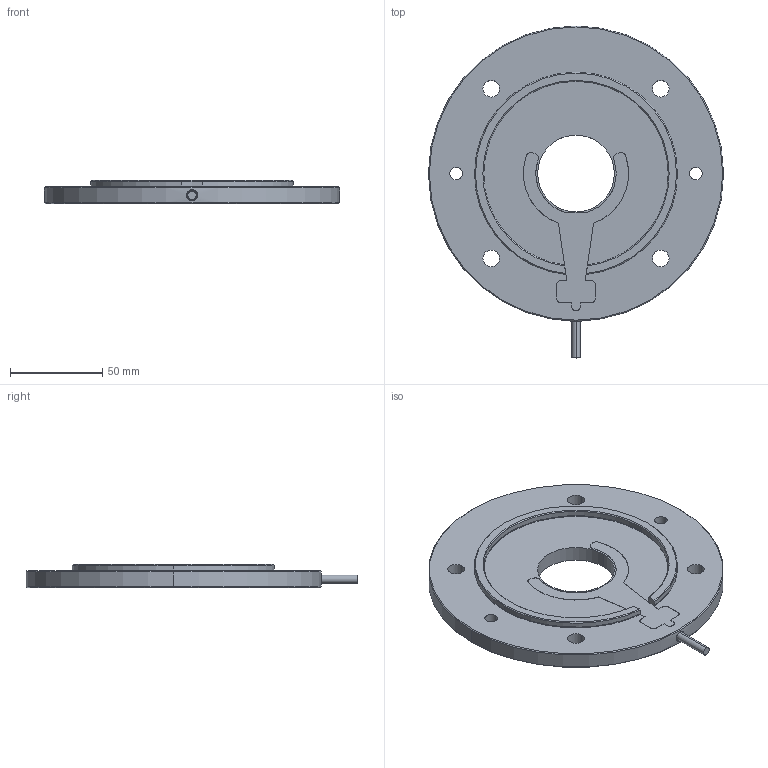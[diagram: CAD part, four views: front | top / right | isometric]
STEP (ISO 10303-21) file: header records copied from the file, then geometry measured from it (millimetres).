
FILE_DESCRIPTION (( 'STEP AP203' ), '1' );
FILE_NAME ('MRH160-9.STEP', '2024-12-16T10:22:15', ( '' ), ( '' ), 'SwSTEP 2.0', 'SolidWorks 2023', '' );
FILE_SCHEMA (( 'CONFIG_CONTROL_DESIGN' ));
Length unit declared in the file: millimetre
Products named in the file (1): MRH160-9
Bounding box: 160 x 180 x 12.5 mm (x, y, z)
Volume: 141269.4 mm3; surface area: 51780 mm2
Topology: 2 solids, 4 shells, 159 faces, 412 edges, 265 vertices
Faces by surface type: cylinder 79, plane 53, cone 14, torus 11, bspline 2
Entity records: 6177 total; most frequent: CARTESIAN_POINT 2050, DIRECTION 903, ORIENTED_EDGE 824, EDGE_CURVE 412, AXIS2_PLACEMENT_3D 352, VERTEX_POINT 265, VECTOR 199, LINE 199
